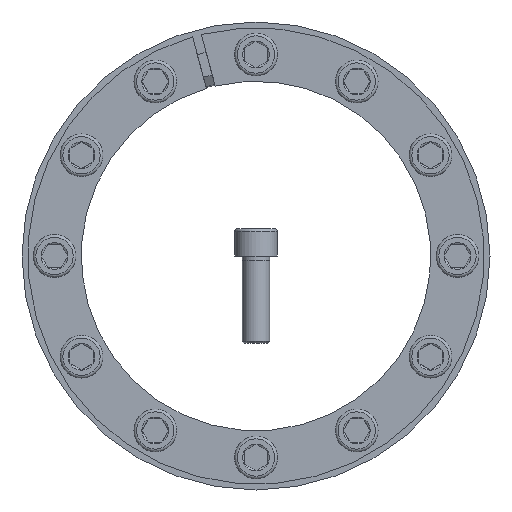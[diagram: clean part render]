
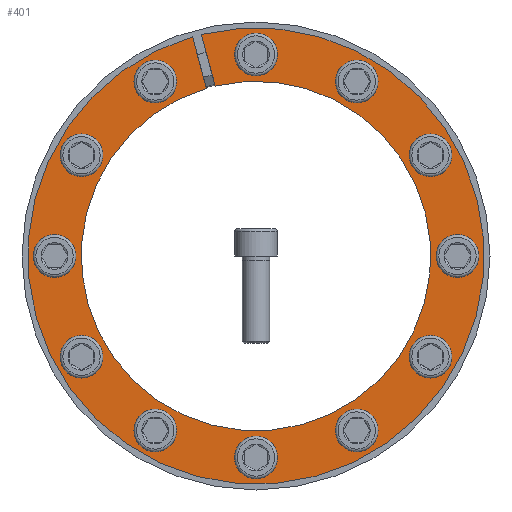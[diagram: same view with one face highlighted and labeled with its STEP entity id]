
A CAD part, front view. The second image highlights one B-rep face of the part: STEP entity #401.
In plain terms, the highlighted planar face has unit normal (0, -1, 0).
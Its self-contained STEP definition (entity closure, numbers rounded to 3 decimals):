
#401 = ADVANCED_FACE( '', ( #622, #623, #624, #625, #626, #627, #628, #629, #630, #631, #632, #633, #634 ), #635, .T. );
#622 = FACE_BOUND( '', #844, .T. );
#623 = FACE_BOUND( '', #845, .T. );
#624 = FACE_BOUND( '', #846, .T. );
#625 = FACE_BOUND( '', #847, .T. );
#626 = FACE_BOUND( '', #848, .T. );
#627 = FACE_BOUND( '', #849, .T. );
#628 = FACE_BOUND( '', #850, .T. );
#629 = FACE_BOUND( '', #851, .T. );
#630 = FACE_BOUND( '', #852, .T. );
#631 = FACE_BOUND( '', #853, .T. );
#632 = FACE_BOUND( '', #854, .T. );
#633 = FACE_BOUND( '', #855, .T. );
#634 = FACE_OUTER_BOUND( '', #856, .T. );
#635 = PLANE( '', #857 );
#844 = EDGE_LOOP( '', ( #1091 ) );
#845 = EDGE_LOOP( '', ( #1092 ) );
#846 = EDGE_LOOP( '', ( #1093 ) );
#847 = EDGE_LOOP( '', ( #1094 ) );
#848 = EDGE_LOOP( '', ( #1095 ) );
#849 = EDGE_LOOP( '', ( #1096 ) );
#850 = EDGE_LOOP( '', ( #1097 ) );
#851 = EDGE_LOOP( '', ( #1098 ) );
#852 = EDGE_LOOP( '', ( #1099 ) );
#853 = EDGE_LOOP( '', ( #1100 ) );
#854 = EDGE_LOOP( '', ( #1101 ) );
#855 = EDGE_LOOP( '', ( #1102 ) );
#856 = EDGE_LOOP( '', ( #1103, #1104, #1105, #1106 ) );
#857 = AXIS2_PLACEMENT_3D( '', #1107, #1108, #1109 );
#1091 = ORIENTED_EDGE( '', *, *, #1627, .T. );
#1092 = ORIENTED_EDGE( '', *, *, #1628, .T. );
#1093 = ORIENTED_EDGE( '', *, *, #1629, .T. );
#1094 = ORIENTED_EDGE( '', *, *, #1630, .T. );
#1095 = ORIENTED_EDGE( '', *, *, #1631, .T. );
#1096 = ORIENTED_EDGE( '', *, *, #1632, .T. );
#1097 = ORIENTED_EDGE( '', *, *, #1633, .T. );
#1098 = ORIENTED_EDGE( '', *, *, #1634, .T. );
#1099 = ORIENTED_EDGE( '', *, *, #1635, .T. );
#1100 = ORIENTED_EDGE( '', *, *, #1636, .T. );
#1101 = ORIENTED_EDGE( '', *, *, #1637, .T. );
#1102 = ORIENTED_EDGE( '', *, *, #1638, .T. );
#1103 = ORIENTED_EDGE( '', *, *, #1639, .T. );
#1104 = ORIENTED_EDGE( '', *, *, #1640, .F. );
#1105 = ORIENTED_EDGE( '', *, *, #1641, .F. );
#1106 = ORIENTED_EDGE( '', *, *, #1642, .T. );
#1107 = CARTESIAN_POINT( '', ( 0., 0., 117.5 ) );
#1108 = DIRECTION( '', ( 0., -1., 0. ) );
#1109 = DIRECTION( '', ( 0., 0., -1. ) );
#1627 = EDGE_CURVE( '', #1813, #1813, #1814, .T. );
#1628 = EDGE_CURVE( '', #1815, #1815, #1816, .T. );
#1629 = EDGE_CURVE( '', #1817, #1817, #1818, .T. );
#1630 = EDGE_CURVE( '', #1819, #1819, #1820, .T. );
#1631 = EDGE_CURVE( '', #1821, #1821, #1822, .T. );
#1632 = EDGE_CURVE( '', #1823, #1823, #1824, .T. );
#1633 = EDGE_CURVE( '', #1825, #1825, #1826, .T. );
#1634 = EDGE_CURVE( '', #1827, #1827, #1828, .T. );
#1635 = EDGE_CURVE( '', #1829, #1829, #1830, .T. );
#1636 = EDGE_CURVE( '', #1831, #1831, #1832, .T. );
#1637 = EDGE_CURVE( '', #1833, #1833, #1834, .T. );
#1638 = EDGE_CURVE( '', #1835, #1835, #1836, .T. );
#1639 = EDGE_CURVE( '', #1837, #1838, #1839, .T. );
#1640 = EDGE_CURVE( '', #1840, #1838, #1841, .T. );
#1641 = EDGE_CURVE( '', #1842, #1840, #1843, .T. );
#1642 = EDGE_CURVE( '', #1842, #1837, #1844, .T. );
#1813 = VERTEX_POINT( '', #2023 );
#1814 = CIRCLE( '', #2024, 7. );
#1815 = VERTEX_POINT( '', #2025 );
#1816 = CIRCLE( '', #2026, 7. );
#1817 = VERTEX_POINT( '', #2027 );
#1818 = CIRCLE( '', #2028, 7. );
#1819 = VERTEX_POINT( '', #2029 );
#1820 = CIRCLE( '', #2030, 7. );
#1821 = VERTEX_POINT( '', #2031 );
#1822 = CIRCLE( '', #2032, 7. );
#1823 = VERTEX_POINT( '', #2033 );
#1824 = CIRCLE( '', #2034, 7. );
#1825 = VERTEX_POINT( '', #2035 );
#1826 = CIRCLE( '', #2036, 7. );
#1827 = VERTEX_POINT( '', #2037 );
#1828 = CIRCLE( '', #2038, 7. );
#1829 = VERTEX_POINT( '', #2039 );
#1830 = CIRCLE( '', #2040, 7. );
#1831 = VERTEX_POINT( '', #2041 );
#1832 = CIRCLE( '', #2042, 7. );
#1833 = VERTEX_POINT( '', #2043 );
#1834 = CIRCLE( '', #2044, 7. );
#1835 = VERTEX_POINT( '', #2045 );
#1836 = CIRCLE( '', #2046, 7. );
#1837 = VERTEX_POINT( '', #2047 );
#1838 = VERTEX_POINT( '', #2048 );
#1839 = CIRCLE( '', #2049, 117.5 );
#1840 = VERTEX_POINT( '', #2050 );
#1841 = LINE( '', #2051, #2052 );
#1842 = VERTEX_POINT( '', #2053 );
#1843 = CIRCLE( '', #2054, 90. );
#1844 = LINE( '', #2055, #2056 );
#2023 = CARTESIAN_POINT( '', ( -45.813, 0., 93.35 ) );
#2024 = AXIS2_PLACEMENT_3D( '', #2285, #2286, #2287 );
#2025 = CARTESIAN_POINT( '', ( -103.75, 0., 7. ) );
#2026 = AXIS2_PLACEMENT_3D( '', #2288, #2289, #2290 );
#2027 = CARTESIAN_POINT( '', ( -57.937, 0., -86.35 ) );
#2028 = AXIS2_PLACEMENT_3D( '', #2291, #2292, #2293 );
#2029 = CARTESIAN_POINT( '', ( 45.813, 0., -93.35 ) );
#2030 = AXIS2_PLACEMENT_3D( '', #2294, #2295, #2296 );
#2031 = CARTESIAN_POINT( '', ( 103.75, 0., -7. ) );
#2032 = AXIS2_PLACEMENT_3D( '', #2297, #2298, #2299 );
#2033 = CARTESIAN_POINT( '', ( 57.937, 0., 86.35 ) );
#2034 = AXIS2_PLACEMENT_3D( '', #2300, #2301, #2302 );
#2035 = CARTESIAN_POINT( '', ( 7., 0., 103.75 ) );
#2036 = AXIS2_PLACEMENT_3D( '', #2303, #2304, #2305 );
#2037 = CARTESIAN_POINT( '', ( 93.35, 0., 45.813 ) );
#2038 = AXIS2_PLACEMENT_3D( '', #2306, #2307, #2308 );
#2039 = CARTESIAN_POINT( '', ( 86.35, 0., -57.937 ) );
#2040 = AXIS2_PLACEMENT_3D( '', #2309, #2310, #2311 );
#2041 = CARTESIAN_POINT( '', ( -7., 0., -103.75 ) );
#2042 = AXIS2_PLACEMENT_3D( '', #2312, #2313, #2314 );
#2043 = CARTESIAN_POINT( '', ( -93.35, 0., -45.813 ) );
#2044 = AXIS2_PLACEMENT_3D( '', #2315, #2316, #2317 );
#2045 = CARTESIAN_POINT( '', ( -86.35, 0., 57.937 ) );
#2046 = AXIS2_PLACEMENT_3D( '', #2318, #2319, #2320 );
#2047 = CARTESIAN_POINT( '', ( -32.675, 0., 112.865 ) );
#2048 = CARTESIAN_POINT( '', ( -28.135, 0., 114.082 ) );
#2049 = AXIS2_PLACEMENT_3D( '', #2321, #2322, #2323 );
#2050 = CARTESIAN_POINT( '', ( -21.016, 0., 87.512 ) );
#2051 = CARTESIAN_POINT( '', ( 2.27, 0., 0.608 ) );
#2052 = VECTOR( '', #2324, 1000. );
#2053 = CARTESIAN_POINT( '', ( -25.556, 0., 86.295 ) );
#2054 = AXIS2_PLACEMENT_3D( '', #2325, #2326, #2327 );
#2055 = CARTESIAN_POINT( '', ( -2.27, 0., -0.608 ) );
#2056 = VECTOR( '', #2328, 1000. );
#2285 = CARTESIAN_POINT( '', ( -51.875, 0., 89.85 ) );
#2286 = DIRECTION( '', ( 0., 1., 0. ) );
#2287 = DIRECTION( '', ( 0.866, 0., 0.5 ) );
#2288 = CARTESIAN_POINT( '', ( -103.75, 0., 0. ) );
#2289 = DIRECTION( '', ( 0., 1., 0. ) );
#2290 = DIRECTION( '', ( 0., 0., 1. ) );
#2291 = CARTESIAN_POINT( '', ( -51.875, 0., -89.85 ) );
#2292 = DIRECTION( '', ( 0., 1., 0. ) );
#2293 = DIRECTION( '', ( -0.866, 0., 0.5 ) );
#2294 = CARTESIAN_POINT( '', ( 51.875, 0., -89.85 ) );
#2295 = DIRECTION( '', ( 0., 1., 0. ) );
#2296 = DIRECTION( '', ( -0.866, 0., -0.5 ) );
#2297 = CARTESIAN_POINT( '', ( 103.75, 0., 0. ) );
#2298 = DIRECTION( '', ( 0., 1., 0. ) );
#2299 = DIRECTION( '', ( 0., 0., -1. ) );
#2300 = CARTESIAN_POINT( '', ( 51.875, 0., 89.85 ) );
#2301 = DIRECTION( '', ( 0., 1., 0. ) );
#2302 = DIRECTION( '', ( 0.866, 0., -0.5 ) );
#2303 = CARTESIAN_POINT( '', ( 0., 0., 103.75 ) );
#2304 = DIRECTION( '', ( 0., 1., 0. ) );
#2305 = DIRECTION( '', ( 1., 0., 0. ) );
#2306 = CARTESIAN_POINT( '', ( 89.85, 0., 51.875 ) );
#2307 = DIRECTION( '', ( 0., 1., 0. ) );
#2308 = DIRECTION( '', ( 0.5, 0., -0.866 ) );
#2309 = CARTESIAN_POINT( '', ( 89.85, 0., -51.875 ) );
#2310 = DIRECTION( '', ( 0., 1., 0. ) );
#2311 = DIRECTION( '', ( -0.5, 0., -0.866 ) );
#2312 = CARTESIAN_POINT( '', ( 0., 0., -103.75 ) );
#2313 = DIRECTION( '', ( 0., 1., 0. ) );
#2314 = DIRECTION( '', ( -1., 0., 0. ) );
#2315 = CARTESIAN_POINT( '', ( -89.85, 0., -51.875 ) );
#2316 = DIRECTION( '', ( 0., 1., 0. ) );
#2317 = DIRECTION( '', ( -0.5, 0., 0.866 ) );
#2318 = CARTESIAN_POINT( '', ( -89.85, 0., 51.875 ) );
#2319 = DIRECTION( '', ( 0., 1., 0. ) );
#2320 = DIRECTION( '', ( 0.5, 0., 0.866 ) );
#2321 = CARTESIAN_POINT( '', ( 0., 0., 0. ) );
#2322 = DIRECTION( '', ( 0., -1., 0. ) );
#2323 = DIRECTION( '', ( 0., 0., -1. ) );
#2324 = DIRECTION( '', ( -0.259, 0., 0.966 ) );
#2325 = CARTESIAN_POINT( '', ( 0., 0., 0. ) );
#2326 = DIRECTION( '', ( 0., -1., 0. ) );
#2327 = DIRECTION( '', ( 0., 0., -1. ) );
#2328 = DIRECTION( '', ( -0.259, 0., 0.966 ) );
